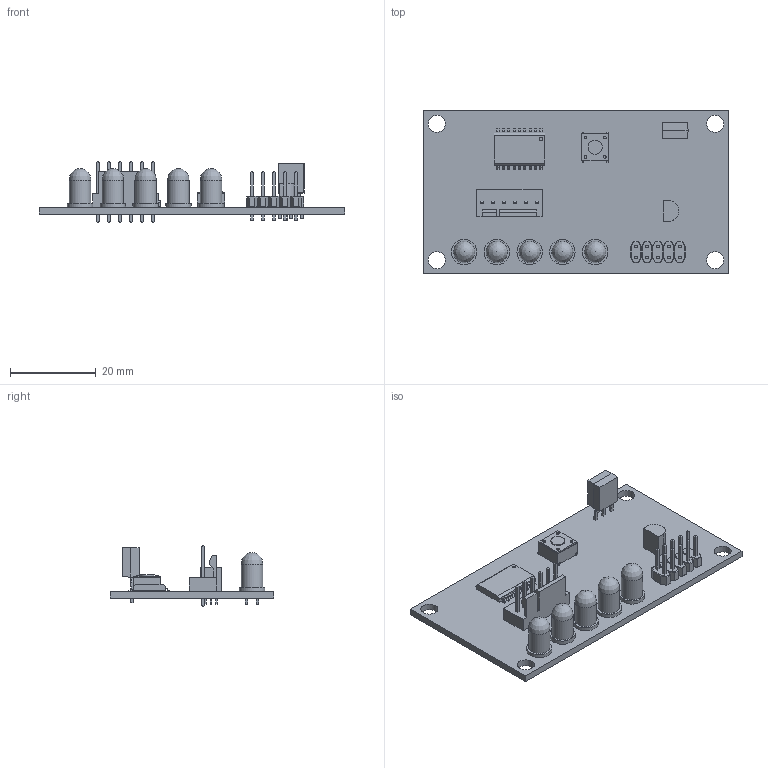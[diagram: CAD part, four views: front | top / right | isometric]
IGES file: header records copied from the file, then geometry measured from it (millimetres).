
Global section: file name: No Iges File Name specified; native system: AutoDesk Inventor R6.0; preprocessor: AutoDesk Inventor Iges Exporter R6.0; author: No Author specified; organization: No Organization specified; date: 20080103.174001; units: inch
Bounding box: 71.12 x 38.1 x 14.22 mm (x, y, z)
Surface area: 8569.6 mm2 (no closed solid volume)
Topology: 0 solids, 0 shells, 857 faces, 4099 edges, 4073 vertices
Faces by surface type: plane 630, bspline 162, revolution 65
